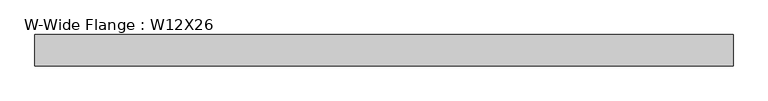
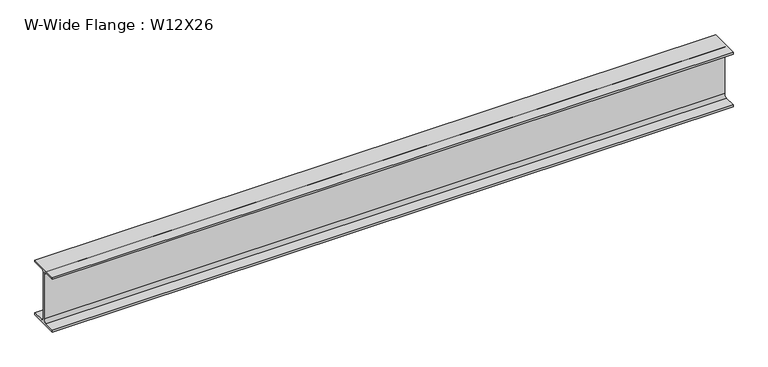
"""IFC4 building model written with IfcOpenShell, lengths in millimetres: beam geometry, W-Wide Flange : W12X26."""

from ifc_helpers import new_model, si_unit, point, frame, frame_2d, origin, place, context, project, spatial, polyline, circle_curve, trimmed, segment, composite_curve, outline, extrude, source, transform, mapped, element, save


def w_wide_flange_w12x26_2a0bff46(model_context):
    return source(origin(), model_context, "Body", "SweptSolid", [
        extrude(outline(composite_curve([segment(polyline([(82.4011719, -145.5539063), (82.4011719, -155.178125), (-82.4011719, -155.178125), (-82.4011719, -145.5539063), (-20.2902344, -145.5539063)]), True, "CONTINUOUS"), segment(trimmed(circle_curve(frame_2d((-20.2902344, -128.190625)), 17.3632812), [point((-20.2902344, -145.5539063))], [point((-2.9269531, -128.190625))], True, "CARTESIAN"), True, "CONTINUOUS"), segment(polyline([(-2.9269531, -128.190625), (-2.9269531, 128.190625)]), True, "CONTINUOUS"), segment(trimmed(circle_curve(frame_2d((-20.2902344, 128.190625)), 17.3632812), [point((-2.9269531, 128.190625))], [point((-20.2902344, 145.5539062))], True, "CARTESIAN"), True, "CONTINUOUS"), segment(polyline([(-20.2902344, 145.5539062), (-82.4011719, 145.5539062), (-82.4011719, 155.178125), (82.4011719, 155.178125), (82.4011719, 145.5539062), (20.2902344, 145.5539062)]), True, "CONTINUOUS"), segment(trimmed(circle_curve(frame_2d((20.2902344, 128.190625)), 17.3632812), [point((20.2902344, 145.5539062))], [point((2.9269531, 128.190625))], True, "CARTESIAN"), True, "CONTINUOUS"), segment(polyline([(2.9269531, 128.190625), (2.9269531, -128.190625)]), True, "CONTINUOUS"), segment(trimmed(circle_curve(frame_2d((20.2902344, -128.190625)), 17.3632812), [point((2.9269531, -128.190625))], [point((20.2902344, -145.5539063))], True, "CARTESIAN"), True, "CONTINUOUS"), segment(polyline([(20.2902344, -145.5539063), (82.4011719, -145.5539063)]), True, "CONTINUOUS")], self_intersect=False)), frame((-1841.0275556, 0.0, 0.0), z_axis=(1.0, 0.0, 0.0), x_axis=(0.0, 1.0, 0.0)), (0.0, 0.0, 1.0), 3682.0551111),
    ])


if __name__ == "__main__":
    model = new_model("IFC4")
    model_context = context("Model", 3, world=origin())
    ifc_project = project(units=[si_unit("LENGTHUNIT", "METRE", prefix="MILLI")], contexts=[model_context])
    site = spatial("IfcSite", under=ifc_project)
    building = spatial("IfcBuilding", under=site)
    placement = place(None, origin())
    w_wide_flange_w12x26_shape = w_wide_flange_w12x26_2a0bff46(model_context)
    element("IfcBeam", 1, ObjectType="W-Wide Flange : W12X26", at=placement, inside=building, context=model_context, shape_type="MappedRepresentation", body=[
        mapped(w_wide_flange_w12x26_shape, transform((0.0, 0.0, 0.0), x_axis=(1.0, 0.0, 0.0), y_axis=(0.0, 1.0, 0.0), z_axis=(0.0, 0.0, 1.0))),
    ])
    save(model, "model.ifc")
